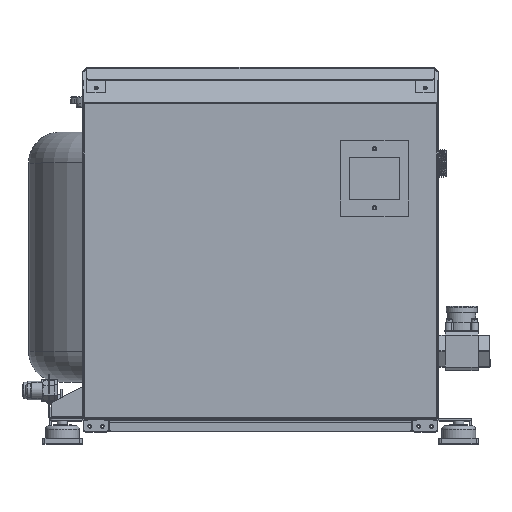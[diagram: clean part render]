
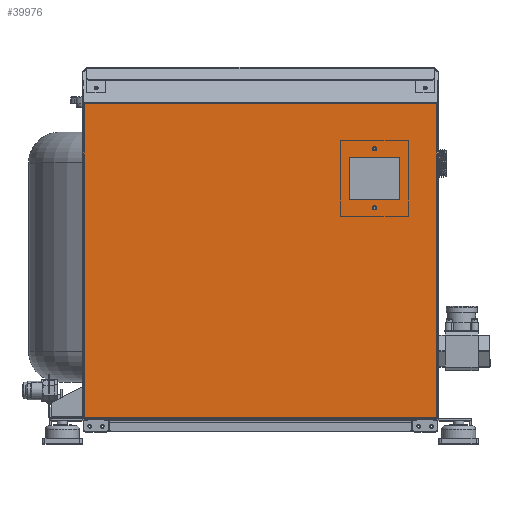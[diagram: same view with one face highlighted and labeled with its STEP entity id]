
A CAD part, top view. The second image highlights one B-rep face of the part: STEP entity #39976.
In plain terms, the highlighted planar face has unit normal (0, 0, 1) as drawn and (0, 1, 0) by its records, which use the part's own axes.
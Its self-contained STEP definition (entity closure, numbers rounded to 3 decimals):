
#1752=FACE_BOUND('',#7330,.T.);
#1753=FACE_BOUND('',#7331,.T.);
#1754=FACE_BOUND('',#7332,.T.);
#2350=CIRCLE('',#43572,2.5);
#2352=CIRCLE('',#43575,2.5);
#4875=FACE_OUTER_BOUND('',#7329,.T.);
#7329=EDGE_LOOP('',(#28612,#28613,#28614,#28615));
#7330=EDGE_LOOP('',(#28616));
#7331=EDGE_LOOP('',(#28617));
#7332=EDGE_LOOP('',(#28618,#28619,#28620,#28621));
#10278=LINE('',#61392,#13916);
#10282=LINE('',#61400,#13920);
#10285=LINE('',#61406,#13923);
#10288=LINE('',#61411,#13926);
#10290=LINE('',#61415,#13928);
#10293=LINE('',#61426,#13931);
#10296=LINE('',#61440,#13934);
#10299=LINE('',#61449,#13937);
#13916=VECTOR('',#48731,10.);
#13920=VECTOR('',#48737,10.);
#13923=VECTOR('',#48742,10.);
#13926=VECTOR('',#48747,10.);
#13928=VECTOR('',#48753,10.);
#13931=VECTOR('',#48772,10.);
#13934=VECTOR('',#48797,10.);
#13937=VECTOR('',#48812,10.);
#17502=VERTEX_POINT('',#61256);
#17530=VERTEX_POINT('',#61339);
#17533=VERTEX_POINT('',#61346);
#17537=VERTEX_POINT('',#61362);
#17540=VERTEX_POINT('',#61378);
#17542=VERTEX_POINT('',#61384);
#17544=VERTEX_POINT('',#61390);
#17545=VERTEX_POINT('',#61391);
#17548=VERTEX_POINT('',#61399);
#17550=VERTEX_POINT('',#61405);
#21655=EDGE_CURVE('',#17540,#17540,#2350,.T.);
#21658=EDGE_CURVE('',#17542,#17542,#2352,.T.);
#21661=EDGE_CURVE('',#17544,#17545,#10278,.T.);
#21665=EDGE_CURVE('',#17548,#17544,#10282,.T.);
#21668=EDGE_CURVE('',#17550,#17548,#10285,.T.);
#21671=EDGE_CURVE('',#17545,#17550,#10288,.T.);
#21674=EDGE_CURVE('',#17537,#17502,#10290,.T.);
#21681=EDGE_CURVE('',#17530,#17533,#10293,.T.);
#21688=EDGE_CURVE('',#17533,#17537,#10296,.T.);
#21693=EDGE_CURVE('',#17502,#17530,#10299,.T.);
#28612=ORIENTED_EDGE('',*,*,#21674,.T.);
#28613=ORIENTED_EDGE('',*,*,#21693,.T.);
#28614=ORIENTED_EDGE('',*,*,#21681,.T.);
#28615=ORIENTED_EDGE('',*,*,#21688,.T.);
#28616=ORIENTED_EDGE('',*,*,#21655,.T.);
#28617=ORIENTED_EDGE('',*,*,#21658,.T.);
#28618=ORIENTED_EDGE('',*,*,#21661,.T.);
#28619=ORIENTED_EDGE('',*,*,#21671,.T.);
#28620=ORIENTED_EDGE('',*,*,#21668,.T.);
#28621=ORIENTED_EDGE('',*,*,#21665,.T.);
#38574=PLANE('',#43610);
#39976=ADVANCED_FACE('',(#4875,#1752,#1753,#1754),#38574,.T.);
#43572=AXIS2_PLACEMENT_3D('',#61379,#48717,#48718);
#43575=AXIS2_PLACEMENT_3D('',#61385,#48724,#48725);
#43610=AXIS2_PLACEMENT_3D('',#61453,#48818,#48819);
#48717=DIRECTION('center_axis',(0.,-1.,0.));
#48718=DIRECTION('ref_axis',(-1.,0.,0.));
#48724=DIRECTION('center_axis',(0.,-1.,0.));
#48725=DIRECTION('ref_axis',(-1.,0.,0.));
#48731=DIRECTION('',(0.,0.,-1.));
#48737=DIRECTION('',(-1.,0.,0.));
#48742=DIRECTION('',(0.,0.,1.));
#48747=DIRECTION('',(1.,0.,0.));
#48753=DIRECTION('',(1.,0.,0.));
#48772=DIRECTION('',(-1.,0.,0.));
#48797=DIRECTION('',(0.,0.,1.));
#48812=DIRECTION('',(0.,0.,-1.));
#48818=DIRECTION('center_axis',(0.,1.,0.));
#48819=DIRECTION('ref_axis',(0.,0.,1.));
#61256=CARTESIAN_POINT('',(186.672,1.,209.));
#61339=CARTESIAN_POINT('',(186.672,1.,-209.));
#61346=CARTESIAN_POINT('',(-185.5,1.,-209.));
#61362=CARTESIAN_POINT('',(-185.5,1.,209.));
#61378=CARTESIAN_POINT('',(66.,1.,135.));
#61379=CARTESIAN_POINT('Origin',(63.5,1.,135.));
#61384=CARTESIAN_POINT('',(136.,1.,135.));
#61385=CARTESIAN_POINT('Origin',(133.5,1.,135.));
#61390=CARTESIAN_POINT('',(73.5,1.,165.));
#61391=CARTESIAN_POINT('',(73.5,1.,105.));
#61392=CARTESIAN_POINT('',(73.5,1.,82.5));
#61399=CARTESIAN_POINT('',(123.5,1.,165.));
#61400=CARTESIAN_POINT('',(61.75,1.,165.));
#61405=CARTESIAN_POINT('',(123.5,1.,105.));
#61406=CARTESIAN_POINT('',(123.5,1.,52.5));
#61411=CARTESIAN_POINT('',(36.75,1.,105.));
#61415=CARTESIAN_POINT('',(-92.75,1.,209.));
#61426=CARTESIAN_POINT('',(93.336,1.,-209.));
#61440=CARTESIAN_POINT('',(-185.5,1.,-105.5));
#61449=CARTESIAN_POINT('',(186.672,1.,105.5));
#61453=CARTESIAN_POINT('Origin',(0.,1.,0.));
